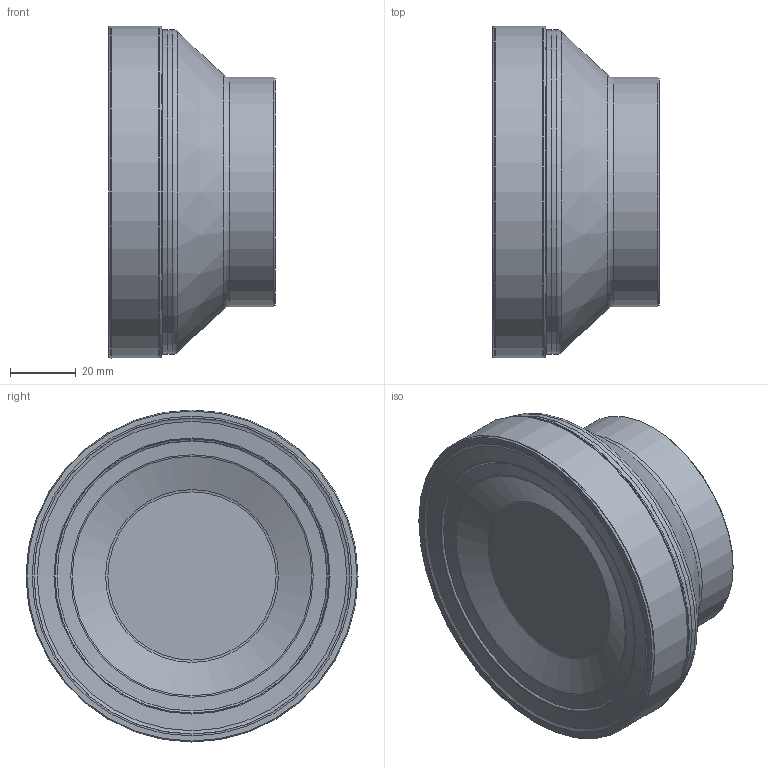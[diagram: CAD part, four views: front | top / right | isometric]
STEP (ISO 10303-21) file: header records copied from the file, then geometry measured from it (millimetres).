
FILE_DESCRIPTION(/* description */ (''),/* implementation_level */ '2;1');
FILE_NAME(/* name */ 'EMP02-4.00''''-B1.25''''-AP16-08.stp',/* time_stamp */ '2022-03-29T11:16:31+08:00',/* author */ (''),/* organization */ (''),/* preprocessor_version */ 'ST-DEVELOPER v16.7',/* originating_system */ 'SIEMENS PLM Software NX 12.0',/* authorisation */ '');
FILE_SCHEMA (('AUTOMOTIVE_DESIGN { 1 0 10303 214 3 1 1 1 }'));
Length unit declared in the file: millimetre
Products named in the file (1): heyu23945552hgx2
Bounding box: 50.8 x 101.34 x 101.34 mm (x, y, z)
Volume: 283651.7 mm3; surface area: 27592.8 mm2
Topology: 1 solids, 1 shells, 33 faces, 68 edges, 37 vertices
Faces by surface type: revolution 16, cone 8, torus 5, cylinder 2, plane 2
Full cylindrical faces by diameter (mm): 70 x1, 99.14 x1
Entity records: 782 total; most frequent: CARTESIAN_POINT 194, DIRECTION 116, EDGE_LOOP 64, ORIENTED_EDGE 64, FACE_BOUND 62, AXIS2_PLACEMENT_3D 50, ADVANCED_FACE 33, VERTEX_POINT 32
